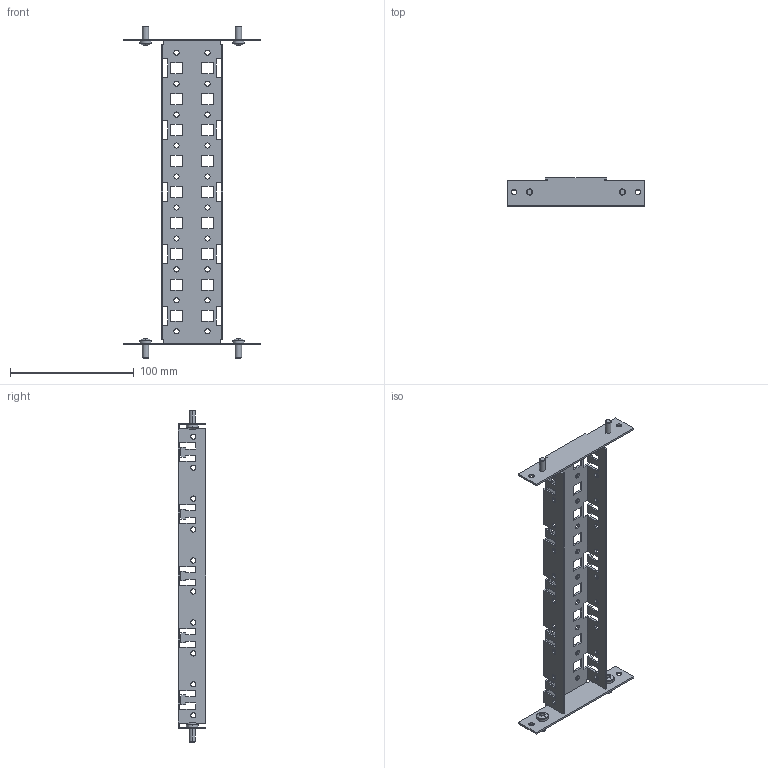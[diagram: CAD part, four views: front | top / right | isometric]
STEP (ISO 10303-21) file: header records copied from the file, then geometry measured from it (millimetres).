
FILE_DESCRIPTION(('Open CASCADE Model'),'2;1');
FILE_NAME('Open CASCADE Shape Model','2025-02-27T11:21:04',('Author'),( 'Open CASCADE'),'Open CASCADE STEP processor 7.8','Open CASCADE 7.8' ,'Unknown');
FILE_SCHEMA(('AUTOMOTIVE_DESIGN { 1 0 10303 214 1 1 1 1 }'));
Length unit declared in the file: millimetre
Products named in the file (3): Compound1; Solid1; Solid2
Assembly tree (5 placements, depth 2):
  Compound1
    Solid1
    Solid2  x4
Bounding box: 111 x 22.5 x 268 mm (x, y, z)
Volume: 35804.4 mm3; surface area: 52101.3 mm2
Topology: 5 solids, 5 shells, 462 faces, 1352 edges, 876 vertices
Faces by surface type: plane 302, cylinder 112, cone 16, torus 16, bspline 8, sphere 8
Entity records: 13862 total; most frequent: CARTESIAN_POINT 2603, ORIENTED_EDGE 2400, DIRECTION 2198, EDGE_CURVE 1200, LINE 970, VECTOR 970, VERTEX_POINT 795, AXIS2_PLACEMENT_3D 614
